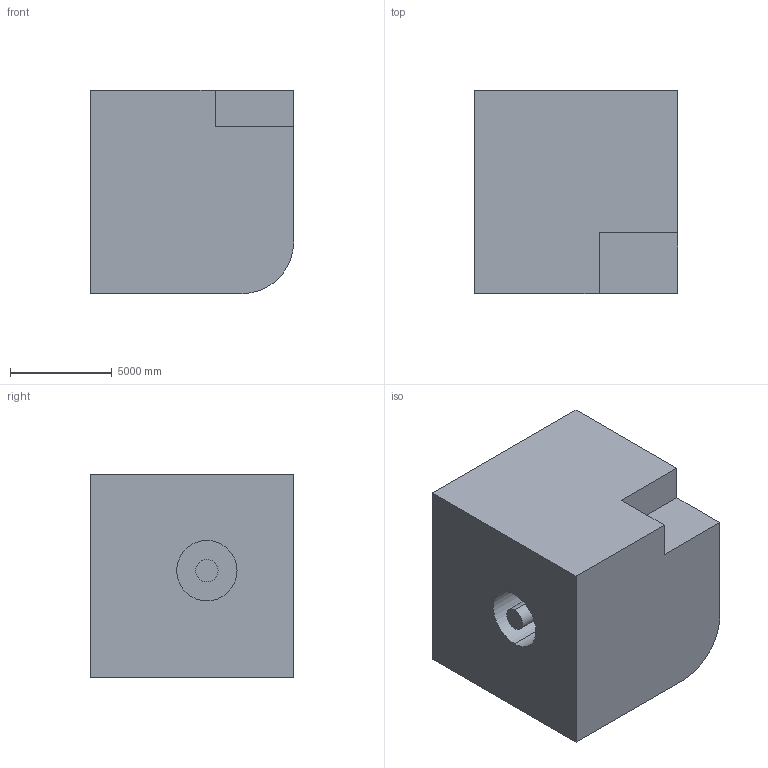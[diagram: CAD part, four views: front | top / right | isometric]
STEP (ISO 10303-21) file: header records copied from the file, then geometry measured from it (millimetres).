
FILE_DESCRIPTION (( 'STEP AP203' ), '1' );
FILE_NAME ('1231.STEP', '2022-08-18T13:18:10', ( 'user' ), ( '' ), 'SwSTEP 2.0', 'SolidWorks 2021', '' );
FILE_SCHEMA (( 'CONFIG_CONTROL_DESIGN' ));
Length unit declared in the file: centimetre
Products named in the file (1): 1231
Bounding box: 10000 x 10000 x 10000 mm (x, y, z)
Volume: 932749232705.9 mm3; surface area: 656880886.6 mm2
Topology: 1 solids, 1 shells, 16 faces, 36 edges, 24 vertices
Faces by surface type: plane 11, cylinder 5
Entity records: 527 total; most frequent: DIRECTION 80, CARTESIAN_POINT 77, ORIENTED_EDGE 72, EDGE_CURVE 36, AXIS2_PLACEMENT_3D 27, LINE 26, VECTOR 26, VERTEX_POINT 24
